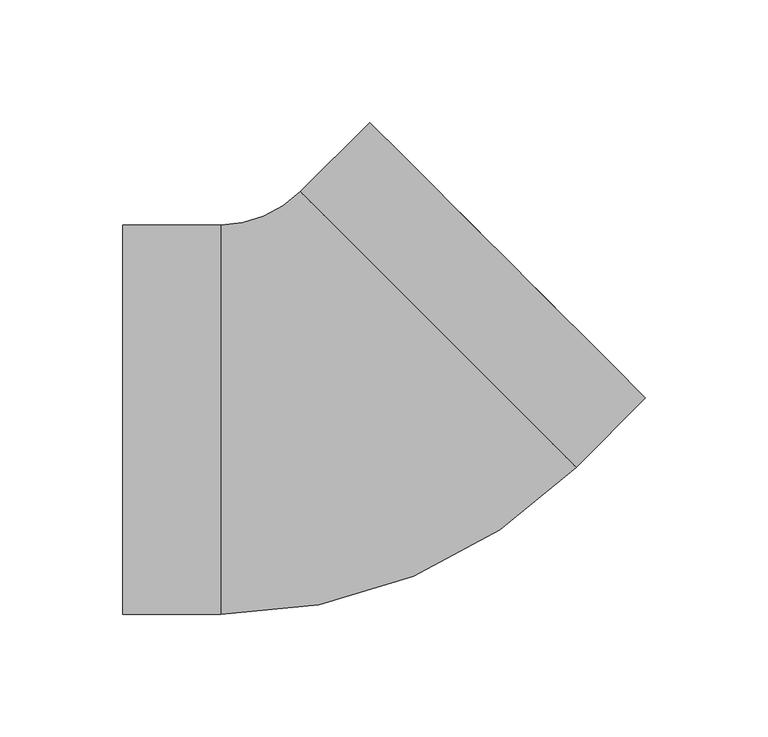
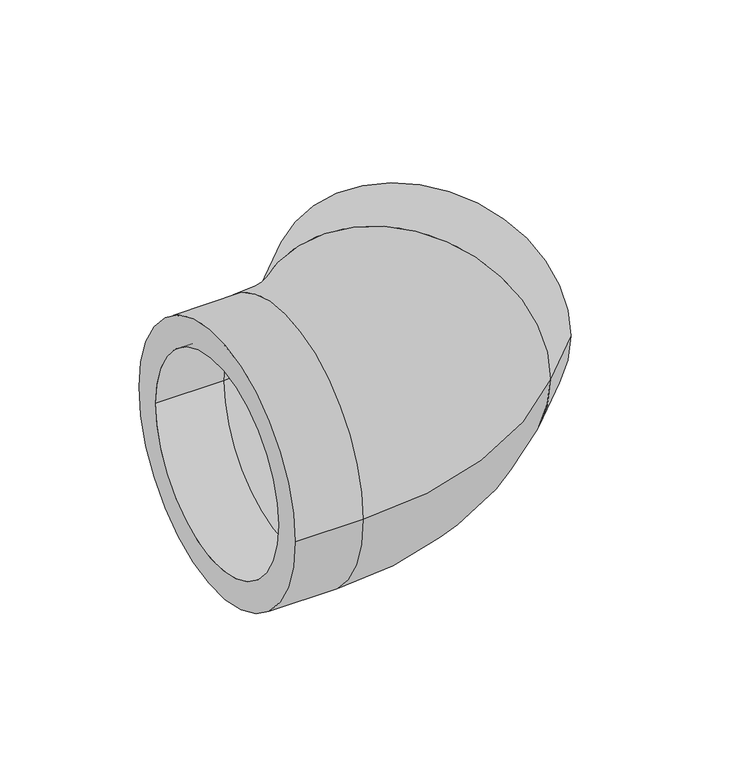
"""IFC4 building model written with IfcOpenShell, lengths in millimetres: duct fitting geometry, HEATPEX - ARIA ADURO - Kolano 45 : HEATPEX - ARIA ADURO - Kolano 45."""

from ifc_helpers import new_model, si_unit, point, frame, origin, place, context, project, spatial, polyline, circle_curve, ellipse_curve, trimmed, source, transform, mapped, element, save
from ifc_brep_helpers import plane_surface, cylinder_surface, revolved_surface, advanced_brep


def duct_fitting_a8d4e932(model_context):
    return source(origin(), model_context, "Body", "AdvancedBrep", [
        advanced_brep(
        [(-92.0, -79.5, 0.0), (-92.0, 79.5, 0.0), (-92.0, -62.5, 0.0), (-92.0, 62.5, 0.0), (-52.0, -62.5, 0.0), (-52.0, 62.5, 0.0), (-52.0, -79.5, 0.0), (-52.0, 79.5, 0.0), (-7.4246212, 80.9637264, 0.0), (80.9637264, -7.4246212, 0.0), (36.7695526, 36.7695526, -62.5), (36.7695526, 36.7695526, 62.5), (-19.4454365, 92.9845417, 0.0), (92.9845417, -19.4454365, 0.0), (36.7695526, 36.7695526, 79.5), (36.7695526, 36.7695526, -79.5), (121.268813, 8.8388348, 0.0), (8.8388348, 121.268813, 0.0), (109.2479977, 20.85965, 0.0), (20.85965, 109.2479977, 0.0)],
        [
            (0, 1, circle_curve(frame((-92.0, 0.0, 0.0), z_axis=(-1.0, 0.0, 0.0), x_axis=(0.0, 1.0, 0.0)), 79.5)),
            (1, 0, circle_curve(frame((-92.0, 0.0, 0.0), z_axis=(-1.0, 0.0, 0.0), x_axis=(0.0, 1.0, 0.0)), 79.5)),
            (2, 3, circle_curve(frame((-92.0, 0.0, 0.0), z_axis=(1.0, 0.0, 0.0), x_axis=(0.0, 1.0, 0.0)), 62.5)),
            (3, 2, circle_curve(frame((-92.0, 0.0, 0.0), z_axis=(1.0, 0.0, 0.0), x_axis=(0.0, 1.0, 0.0)), 62.5)),
            (2, 4),
            (4, 5, circle_curve(frame((-52.0, 0.0, 0.0), z_axis=(1.0, 0.0, 0.0), x_axis=(0.0, 1.0, 0.0)), 62.5)),
            (5, 3),
            (5, 4, circle_curve(frame((-52.0, 0.0, 0.0), z_axis=(1.0, 0.0, 0.0), x_axis=(0.0, 1.0, 0.0)), 62.5)),
            (0, 6),
            (6, 7, circle_curve(frame((-52.0, 0.0, 0.0), z_axis=(-1.0, 0.0, 0.0), x_axis=(0.0, 1.0, 0.0)), 79.5)),
            (7, 1),
            (7, 6, circle_curve(frame((-52.0, 0.0, 0.0), z_axis=(-1.0, 0.0, 0.0), x_axis=(0.0, 1.0, 0.0)), 79.5)),
            (8, 5, circle_curve(frame((-52.0, 125.5391052, 0.0), z_axis=(0.0, 0.0, -1.0), x_axis=(0.0, -1.0, 0.0)), 63.0391052)),
            (4, 9, circle_curve(frame((-52.0, 125.5391052, 0.0), z_axis=(0.0, 0.0, 1.0), x_axis=(0.0, -1.0, 0.0)), 188.0391052)),
            (9, 10, circle_curve(frame((36.7695526, 36.7695526, 0.0), z_axis=(0.7071067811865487, 0.7071067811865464, 0.0), x_axis=(-0.7071067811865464, 0.7071067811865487, 0.0)), 62.5)),
            (10, 8, circle_curve(frame((36.7695526, 36.7695526, 0.0), z_axis=(0.7071067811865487, 0.7071067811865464, 0.0), x_axis=(-0.7071067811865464, 0.7071067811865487, 0.0)), 62.5)),
            (8, 11, circle_curve(frame((36.7695526, 36.7695526, 0.0), z_axis=(0.7071067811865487, 0.7071067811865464, 0.0), x_axis=(-0.7071067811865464, 0.7071067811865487, 0.0)), 62.5)),
            (11, 9, circle_curve(frame((36.7695526, 36.7695526, 0.0), z_axis=(0.7071067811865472, 0.7071067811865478, 0.0), x_axis=(-0.7071067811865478, 0.7071067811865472, 0.0)), 62.5)),
            (12, 7, circle_curve(frame((-52.0, 125.5391052, 0.0), z_axis=(0.0, 0.0, -1.0), x_axis=(0.0, -1.0, 0.0)), 46.0391052)),
            (6, 13, circle_curve(frame((-52.0, 125.5391052, 0.0), z_axis=(0.0, 0.0, 1.0), x_axis=(0.0, -1.0, 0.0)), 205.0391052)),
            (13, 14, circle_curve(frame((36.7695526, 36.7695526, 0.0), z_axis=(-0.7071067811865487, -0.7071067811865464, 0.0), x_axis=(-0.7071067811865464, 0.7071067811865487, 0.0)), 79.5)),
            (14, 12, circle_curve(frame((36.7695526, 36.7695526, 0.0), z_axis=(-0.7071067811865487, -0.7071067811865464, 0.0), x_axis=(-0.7071067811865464, 0.7071067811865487, 0.0)), 79.5)),
            (12, 15, circle_curve(frame((36.7695526, 36.7695526, 0.0), z_axis=(-0.7071067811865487, -0.7071067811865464, 0.0), x_axis=(-0.7071067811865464, 0.7071067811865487, 0.0)), 79.5)),
            (15, 13, circle_curve(frame((36.7695526, 36.7695526, 0.0), z_axis=(-0.7071067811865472, -0.7071067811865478, 0.0), x_axis=(-0.7071067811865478, 0.7071067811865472, 0.0)), 79.5)),
            (16, 17, circle_curve(frame((65.0538239, 65.0538239, 0.0), z_axis=(0.7071067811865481, 0.7071067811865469, 0.0), x_axis=(-0.7071067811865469, 0.7071067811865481, 0.0)), 79.5)),
            (17, 16, circle_curve(frame((65.0538239, 65.0538239, 0.0), z_axis=(0.7071067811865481, 0.7071067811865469, 0.0), x_axis=(-0.7071067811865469, 0.7071067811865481, 0.0)), 79.5)),
            (18, 19, circle_curve(frame((65.0538239, 65.0538239, 0.0), z_axis=(-0.7071067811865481, -0.7071067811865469, 0.0), x_axis=(-0.7071067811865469, 0.7071067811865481, 0.0)), 62.5)),
            (19, 18, circle_curve(frame((65.0538239, 65.0538239, 0.0), z_axis=(-0.7071067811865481, -0.7071067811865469, 0.0), x_axis=(-0.7071067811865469, 0.7071067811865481, 0.0)), 62.5)),
            (19, 8),
            (9, 18),
            (17, 12),
            (13, 16),
        ],
        [
            plane_surface(frame((-92.0, 0.0, 0.0), z_axis=(-1.0, 0.0, 0.0), x_axis=(0.0, 0.0, 1.0))),
            revolved_surface(polyline([(-52.0, 62.5, 0.0), (-92.0, 62.5, 0.0)]), (-92.0, 0.0, 0.0), (1.0, 0.0, 0.0)),
            cylinder_surface(frame((-92.0, 0.0, 0.0), z_axis=(-1.0, 0.0, 0.0), x_axis=(0.0, 1.0, 0.0)), 79.5),
            revolved_surface(trimmed(ellipse_curve(frame((-52.0, 0.0, 0.0), z_axis=(1.0, 0.0, 0.0), x_axis=(0.0, 1.0, 0.0)), 62.5, 62.5), [point((-52.0, -62.5, 0.0))], [point((-52.0, 62.5, 0.0))], True, "CARTESIAN"), (-52.0, 125.5391052, 0.0), (0.0, 0.0, 1.0)),
            revolved_surface(trimmed(ellipse_curve(frame((-52.0, 0.0, 0.0), z_axis=(1.0, 0.0, 0.0), x_axis=(0.0, 1.0, 0.0)), 62.5, 62.5), [point((-52.0, 62.5, 0.0))], [point((-52.0, -62.5, 0.0))], True, "CARTESIAN"), (-52.0, 125.5391052, 0.0), (0.0, 0.0, 1.0)),
            revolved_surface(trimmed(ellipse_curve(frame((-52.0, 0.0, 0.0), z_axis=(-1.0, 0.0, 0.0), x_axis=(0.0, 1.0, 0.0)), 79.5, 79.5), [point((-52.0, -79.5, 0.0))], [point((-52.0, 79.5, 0.0))], True, "CARTESIAN"), (-52.0, 125.5391052, 0.0), (0.0, 0.0, 1.0)),
            revolved_surface(trimmed(ellipse_curve(frame((-52.0, 0.0, 0.0), z_axis=(-1.0, 0.0, 0.0), x_axis=(0.0, 1.0, 0.0)), 79.5, 79.5), [point((-52.0, 79.5, 0.0))], [point((-52.0, -79.5, 0.0))], True, "CARTESIAN"), (-52.0, 125.5391052, 0.0), (0.0, 0.0, 1.0)),
            plane_surface(frame((65.0538239, 65.0538239, 0.0), z_axis=(0.7071067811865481, 0.7071067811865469, 0.0), x_axis=(0.0, 0.0, 1.0))),
            revolved_surface(polyline([(20.85965007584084, 109.24799772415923, 0.0), (-7.4246212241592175, 80.96372642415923, 0.0)]), (36.7695526, 36.7695526, 0.0), (0.7071067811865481, 0.7071067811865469, 0.0)),
            revolved_surface(polyline([(20.85965007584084, 109.24799772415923, 0.0), (-7.424621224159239, 80.9637264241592, 0.0)]), (36.7695526, 36.7695526, 0.0), (0.7071067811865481, 0.7071067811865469, 0.0)),
            cylinder_surface(frame((36.7695526, 36.7695526, 0.0), z_axis=(-0.7071067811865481, -0.7071067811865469, 0.0), x_axis=(-0.7071067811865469, 0.7071067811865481, 0.0)), 79.5),
        ],
        [
            (0, [[1, 2], [3, 4]]),
            (1, [[-3, 5, 6, 7]]),
            (1, [[-4, -7, 8, -5]]),
            (2, [[-1, 9, 10, 11]]),
            (2, [[-2, -11, 12, -9]]),
            (3, [[13, -6, 14, 15, 16]]),
            (4, [[-13, 17, 18, -14, -8]]),
            (5, [[19, -10, 20, 21, 22]]),
            (6, [[-19, 23, 24, -20, -12]]),
            (7, [[25, 26], [27, 28]]),
            (8, [[-28, 29, -16, -15, 30]]),
            (9, [[-27, -30, -18, -17, -29]]),
            (10, [[-26, 31, -22, -21, 32]]),
            (10, [[-25, -32, -24, -23, -31]]),
        ],
    ),
    ])


if __name__ == "__main__":
    model = new_model("IFC4")
    model_context = context("Model", 3, world=origin())
    ifc_project = project(units=[si_unit("LENGTHUNIT", "METRE", prefix="MILLI")], contexts=[model_context])
    site = spatial("IfcSite", under=ifc_project)
    building = spatial("IfcBuilding", under=site)
    placement = place(None, origin())
    duct_fitting_shape = duct_fitting_a8d4e932(model_context)
    element("IfcDuctFitting", 1, ObjectType="HEATPEX - ARIA ADURO - Kolano 45 : HEATPEX - ARIA ADURO - Kolano 45", at=placement, inside=building, context=model_context, shape_type="MappedRepresentation", body=[
        mapped(duct_fitting_shape, transform((0.0, 0.0, 0.0), x_axis=(1.0, 0.0, 0.0), y_axis=(0.0, 1.0, 0.0), z_axis=(0.0, 0.0, 1.0))),
    ])
    save(model, "model.ifc")
